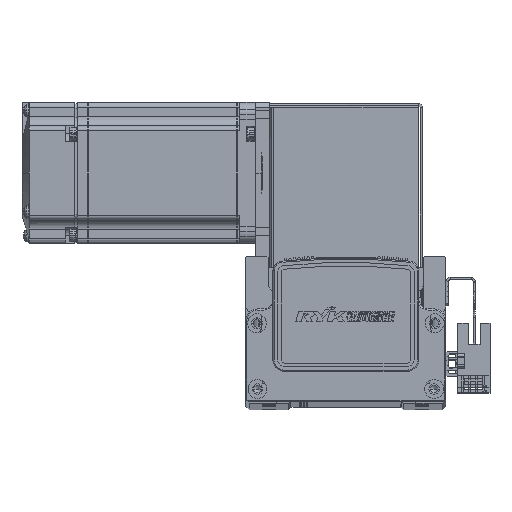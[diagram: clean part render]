
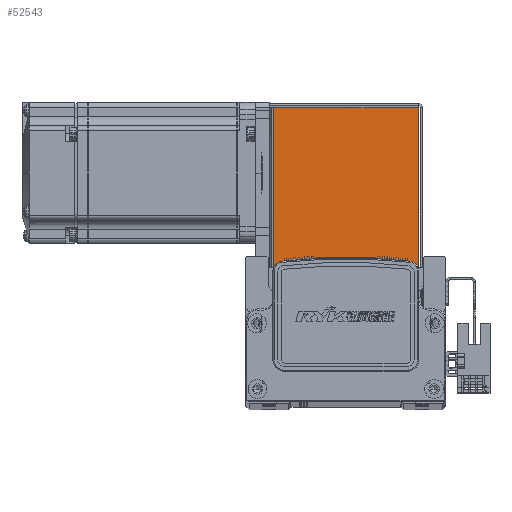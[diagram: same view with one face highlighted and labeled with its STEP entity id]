
A CAD part, top view. The second image highlights one B-rep face of the part: STEP entity #52543.
In plain terms, the highlighted planar face has unit normal (0, 0, 1).
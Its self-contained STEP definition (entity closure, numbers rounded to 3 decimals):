
#12053 = CARTESIAN_POINT ( 'NONE',  ( -30.793, 68.5, 35. ) ) ;
#12060 = CARTESIAN_POINT ( 'NONE',  ( -30.793, 0.737, 35. ) ) ;
#12085 = CARTESIAN_POINT ( 'NONE',  ( 30.763, 0.737, 35. ) ) ;
#12100 = CARTESIAN_POINT ( 'NONE',  ( 30.763, 68.5, 35. ) ) ;
#34287 = EDGE_CURVE ( 'NONE', #74042, #74035, #69067, .T. ) ;
#34314 = EDGE_CURVE ( 'NONE', #74045, #74060, #69121, .T. ) ;
#34341 = EDGE_CURVE ( 'NONE', #74035, #74060, #69312, .T. ) ;
#34342 = EDGE_CURVE ( 'NONE', #74042, #74045, #69320, .T. ) ;
#42556 = CARTESIAN_POINT ( 'NONE',  ( -32.5, 0.737, 35. ) ) ;
#42564 = DIRECTION ( 'NONE',  ( -1., 0., 0. ) ) ;
#42722 = DIRECTION ( 'NONE',  ( -1., 0., 0. ) ) ;
#42740 = CARTESIAN_POINT ( 'NONE',  ( 0., 68.5, 35. ) ) ;
#42818 = CARTESIAN_POINT ( 'NONE',  ( 30.763, 0.737, 35. ) ) ;
#42870 = CARTESIAN_POINT ( 'NONE',  ( -30.793, 0., 35. ) ) ;
#42893 = DIRECTION ( 'NONE',  ( 0., 1., 0. ) ) ;
#42896 = DIRECTION ( 'NONE',  ( 0., 1., 0. ) ) ;
#47562 = EDGE_LOOP ( 'NONE', ( #65835, #65716, #65803, #65765 ) ) ;
#49778 = FACE_OUTER_BOUND ( 'NONE', #47562, .T. ) ;
#52543 = ADVANCED_FACE ( 'NONE', ( #49778 ), #80525, .F. ) ;
#65716 = ORIENTED_EDGE ( 'NONE', *, *, #34314, .T. ) ;
#65765 = ORIENTED_EDGE ( 'NONE', *, *, #34287, .F. ) ;
#65803 = ORIENTED_EDGE ( 'NONE', *, *, #34341, .F. ) ;
#65835 = ORIENTED_EDGE ( 'NONE', *, *, #34342, .T. ) ;
#69067 = LINE ( 'NONE', #42556, #69095 ) ;
#69095 = VECTOR ( 'NONE', #42564, 1000. ) ;
#69121 = LINE ( 'NONE', #42740, #69129 ) ;
#69129 = VECTOR ( 'NONE', #42722, 1000. ) ;
#69245 = VECTOR ( 'NONE', #42893, 1000. ) ;
#69312 = LINE ( 'NONE', #42870, #69346 ) ;
#69320 = LINE ( 'NONE', #42818, #69245 ) ;
#69346 = VECTOR ( 'NONE', #42896, 1000. ) ;
#74035 = VERTEX_POINT ( 'NONE', #12060 ) ;
#74042 = VERTEX_POINT ( 'NONE', #12085 ) ;
#74045 = VERTEX_POINT ( 'NONE', #12100 ) ;
#74060 = VERTEX_POINT ( 'NONE', #12053 ) ;
#78953 = AXIS2_PLACEMENT_3D ( 'NONE', #80528, #80517, #80512 ) ;
#80512 = DIRECTION ( 'NONE',  ( -1., 0., 0. ) ) ;
#80517 = DIRECTION ( 'NONE',  ( 0., 0., -1. ) ) ;
#80525 = PLANE ( 'NONE',  #78953 ) ;
#80528 = CARTESIAN_POINT ( 'NONE',  ( 0., 0., 35. ) ) ;
